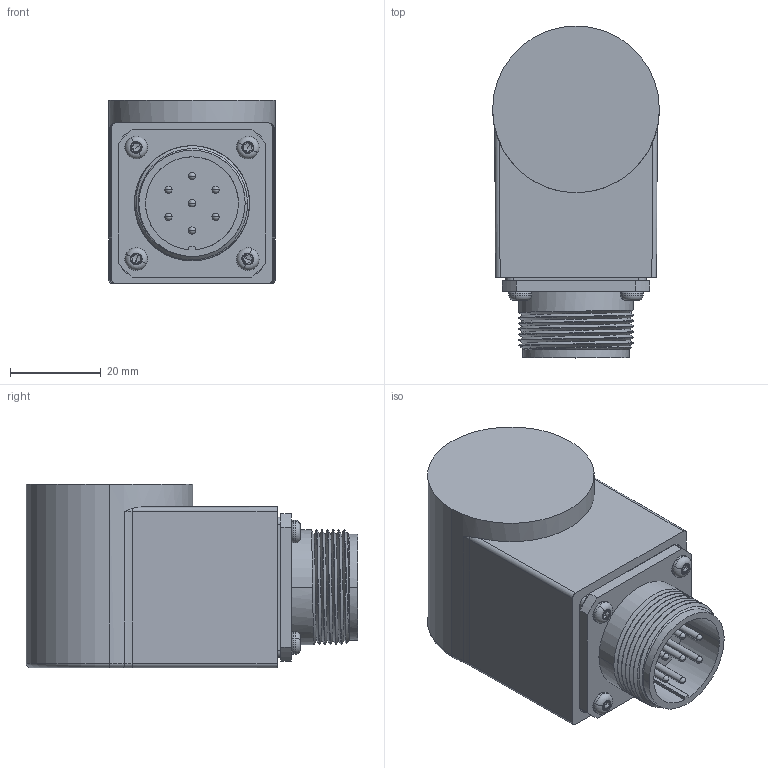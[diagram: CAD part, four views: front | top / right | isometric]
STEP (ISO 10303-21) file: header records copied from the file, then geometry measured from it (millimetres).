
FILE_DESCRIPTION (( 'STEP AP203' ), '1' );
FILE_NAME ('Drawing-MC-3-CR-405-SNM-NNNS6T-N-PRE-N.STEP', '2014-04-30T09:35:13', ( '' ), ( '' ), 'SwSTEP 2.0', 'SolidWorks 2014', '' );
FILE_SCHEMA (( 'CONFIG_CONTROL_DESIGN' ));
Length unit declared in the file: millimetre
Products named in the file (1): Drawing-MC-3-CR-405-SNM-NNNS6T-N-PRE-N
Bounding box: 36.8 x 73.22 x 40.5 mm (x, y, z)
Volume: 33230.8 mm3; surface area: 24618.2 mm2
Topology: 7 solids, 7 shells, 371 faces, 965 edges, 609 vertices
Faces by surface type: cylinder 140, cone 94, plane 72, torus 47, sphere 12, bspline 6
Entity records: 15612 total; most frequent: CARTESIAN_POINT 6547, DIRECTION 1989, ORIENTED_EDGE 1842, EDGE_CURVE 921, AXIS2_PLACEMENT_3D 867, VERTEX_POINT 597, CIRCLE 501, EDGE_LOOP 422
